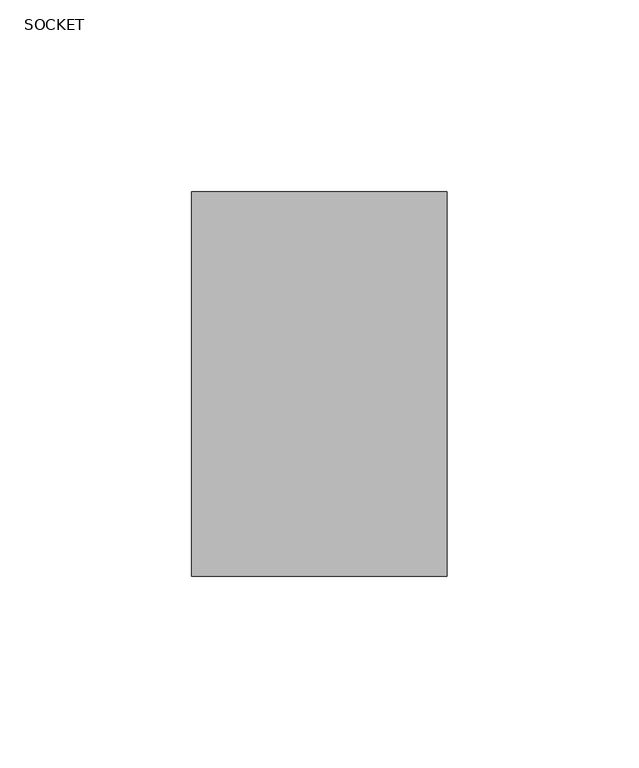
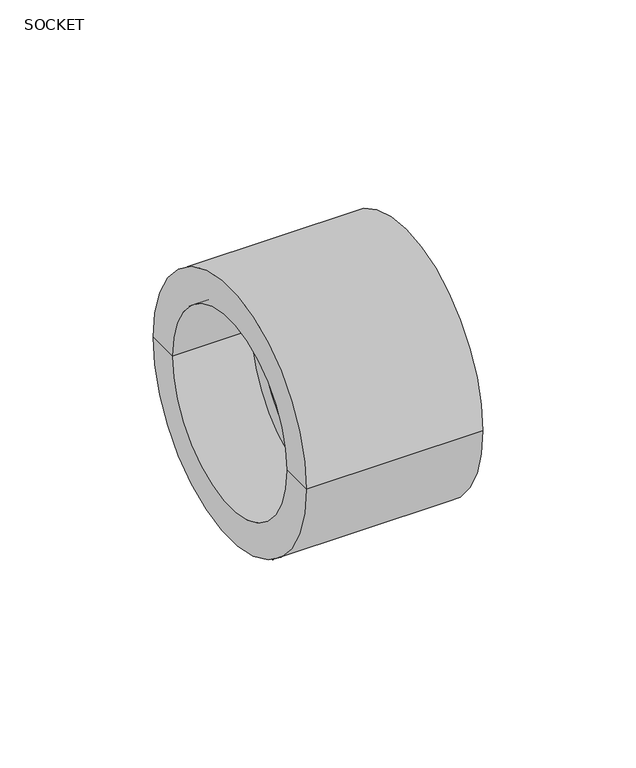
"""IFC4 building model written with IfcOpenShell, lengths in millimetres: pipe fitting geometry, Aquatherm - Coupling Socket : SOCKET."""

from ifc_helpers import new_model, si_unit, frame, origin, place, context, project, spatial, polyline, circle_curve, source, transform, mapped, element, save
from ifc_brep_helpers import plane_surface, cylinder_surface, revolved_surface, advanced_brep


def socket_c09d3458(model_context):
    return source(origin(), model_context, "Body", "AdvancedBrep", [
        advanced_brep(
        [(-33.274, -37.465, 0.0), (-33.274, 37.465, 0.0), (-33.274, 50.038, 0.0), (-33.274, -50.038, 0.0), (-3.302, -37.465, 0.0), (-3.302, 37.465, 0.0), (-3.302, -30.861, 0.0), (-3.302, 30.861, 0.0), (3.302, -30.861, 0.0), (3.302, 30.861, 0.0), (3.302, -37.465, 0.0), (3.302, 37.465, 0.0), (33.274, -37.465, 0.0), (33.274, 37.465, 0.0), (33.274, -50.038, 0.0), (33.274, 50.038, 0.0)],
        [
            (0, 1, circle_curve(frame((-33.274, 0.0, 0.0), z_axis=(1.0, 0.0, 0.0), x_axis=(0.0, 1.0, 0.0)), 37.465)),
            (1, 2),
            (2, 3, circle_curve(frame((-33.274, 0.0, 0.0), z_axis=(-1.0, 0.0, 0.0), x_axis=(0.0, 1.0, 0.0)), 50.038)),
            (3, 0),
            (1, 0, circle_curve(frame((-33.274, 0.0, 0.0), z_axis=(1.0, 0.0, 0.0), x_axis=(0.0, 1.0, 0.0)), 37.465)),
            (3, 2, circle_curve(frame((-33.274, 0.0, 0.0), z_axis=(-1.0, 0.0, 0.0), x_axis=(0.0, 1.0, 0.0)), 50.038)),
            (4, 5, circle_curve(frame((-3.302, 0.0, 0.0), z_axis=(1.0, 0.0, 0.0), x_axis=(0.0, 1.0, 0.0)), 37.465)),
            (5, 1),
            (0, 4),
            (5, 4, circle_curve(frame((-3.302, 0.0, 0.0), z_axis=(1.0, 0.0, 0.0), x_axis=(0.0, 1.0, 0.0)), 37.465)),
            (6, 7, circle_curve(frame((-3.302, 0.0, 0.0), z_axis=(1.0, 0.0, 0.0), x_axis=(0.0, 1.0, 0.0)), 30.861)),
            (7, 5),
            (4, 6),
            (7, 6, circle_curve(frame((-3.302, 0.0, 0.0), z_axis=(1.0, 0.0, 0.0), x_axis=(0.0, 1.0, 0.0)), 30.861)),
            (8, 9, circle_curve(frame((3.302, 0.0, 0.0), z_axis=(1.0, 0.0, 0.0), x_axis=(0.0, 1.0, 0.0)), 30.861)),
            (9, 7),
            (6, 8),
            (9, 8, circle_curve(frame((3.302, 0.0, 0.0), z_axis=(1.0, 0.0, 0.0), x_axis=(0.0, 1.0, 0.0)), 30.861)),
            (10, 11, circle_curve(frame((3.302, 0.0, 0.0), z_axis=(1.0, 0.0, 0.0), x_axis=(0.0, 1.0, 0.0)), 37.465)),
            (11, 9),
            (8, 10),
            (11, 10, circle_curve(frame((3.302, 0.0, 0.0), z_axis=(1.0, 0.0, 0.0), x_axis=(0.0, 1.0, 0.0)), 37.465)),
            (12, 13, circle_curve(frame((33.274, 0.0, 0.0), z_axis=(1.0, 0.0, 0.0), x_axis=(0.0, 1.0, 0.0)), 37.465)),
            (13, 11),
            (10, 12),
            (13, 12, circle_curve(frame((33.274, 0.0, 0.0), z_axis=(1.0, 0.0, 0.0), x_axis=(0.0, 1.0, 0.0)), 37.465)),
            (14, 15, circle_curve(frame((33.274, 0.0, 0.0), z_axis=(1.0, 0.0, 0.0), x_axis=(0.0, 1.0, 0.0)), 50.038)),
            (15, 13),
            (12, 14),
            (15, 14, circle_curve(frame((33.274, 0.0, 0.0), z_axis=(1.0, 0.0, 0.0), x_axis=(0.0, 1.0, 0.0)), 50.038)),
            (2, 15),
            (14, 3),
        ],
        [
            plane_surface(frame((-33.274, 0.0, 0.0), z_axis=(-1.0, 0.0, 0.0), x_axis=(0.0, 1.0, 0.0))),
            revolved_surface(polyline([(-33.274, 37.465, 0.0), (-3.3019999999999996, 37.465, 0.0)]), (-49.5724022, 0.0, 0.0), (-1.0, 0.0, 0.0)),
            plane_surface(frame((-3.302, 0.0, 0.0), z_axis=(-1.0, 0.0, 0.0), x_axis=(0.0, 1.0, 0.0))),
            revolved_surface(polyline([(-3.3019999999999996, 30.861, 0.0), (3.3019999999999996, 30.861, 0.0)]), (-49.5724022, 0.0, 0.0), (-1.0, 0.0, 0.0)),
            plane_surface(frame((3.302, 0.0, 0.0), z_axis=(1.0, 0.0, 0.0), x_axis=(0.0, 1.0, 0.0))),
            revolved_surface(polyline([(3.3019999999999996, 37.465, 0.0), (33.274, 37.465, 0.0)]), (-49.5724022, 0.0, 0.0), (-1.0, 0.0, 0.0)),
            plane_surface(frame((33.274, 0.0, 0.0), z_axis=(1.0, 0.0, 0.0), x_axis=(0.0, 1.0, 0.0))),
            cylinder_surface(frame((-49.5724022, 0.0, 0.0), z_axis=(-1.0, 0.0, 0.0), x_axis=(0.0, 1.0, 0.0)), 50.038),
        ],
        [
            (0, [[1, 2, 3, 4]]),
            (0, [[5, -4, 6, -2]]),
            (1, [[7, 8, -1, 9]]),
            (1, [[10, -9, -5, -8]]),
            (2, [[11, 12, -7, 13]]),
            (2, [[14, -13, -10, -12]]),
            (3, [[15, 16, -11, 17]]),
            (3, [[18, -17, -14, -16]]),
            (4, [[19, 20, -15, 21]]),
            (4, [[22, -21, -18, -20]]),
            (5, [[23, 24, -19, 25]]),
            (5, [[26, -25, -22, -24]]),
            (6, [[27, 28, -23, 29]]),
            (6, [[30, -29, -26, -28]]),
            (7, [[-3, 31, -27, 32]]),
            (7, [[-6, -32, -30, -31]]),
        ],
    ),
    ])


if __name__ == "__main__":
    model = new_model("IFC4")
    model_context = context("Model", 3, world=origin())
    ifc_project = project(units=[si_unit("LENGTHUNIT", "METRE", prefix="MILLI")], contexts=[model_context])
    site = spatial("IfcSite", under=ifc_project)
    building = spatial("IfcBuilding", under=site)
    placement = place(None, origin())
    ifc_socket_shape = socket_c09d3458(model_context)
    element("IfcPipeFitting", 1, ObjectType="Aquatherm - Coupling Socket : SOCKET", at=placement, inside=building, context=model_context, shape_type="MappedRepresentation", body=[
        mapped(ifc_socket_shape, transform((0.0, 0.0, 0.0), x_axis=(1.0, 0.0, 0.0), y_axis=(0.0, 1.0, 0.0), z_axis=(0.0, 0.0, 1.0))),
    ])
    save(model, "model.ifc")
